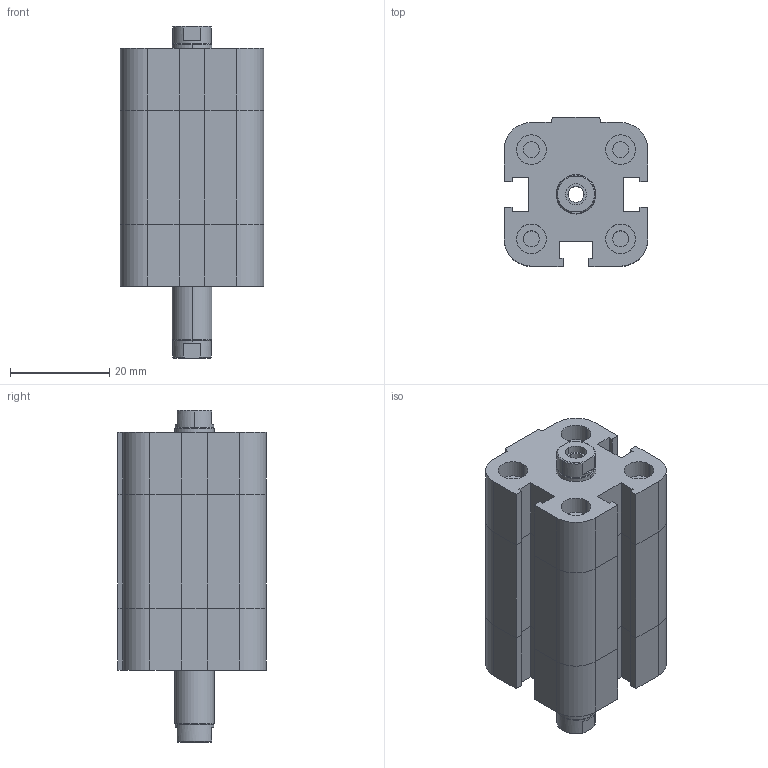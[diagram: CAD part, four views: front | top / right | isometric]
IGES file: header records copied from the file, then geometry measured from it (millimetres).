
Global section: file name: No Iges File Name specified; native system: Autodesk Inventor 2009; preprocessor: AutoDesk Inventor Iges Exporter R2009; author: maffial1; date: 20090420.201144; units: millimetre
Bounding box: 29 x 30 x 67 mm (x, y, z)
Volume: 33465.2 mm3; surface area: 14028.1 mm2
Topology: 2 solids, 2 shells, 204 faces, 456 edges, 278 vertices
Faces by surface type: plane 114, bspline 44, revolution 20, cylinder 18, cone 8
